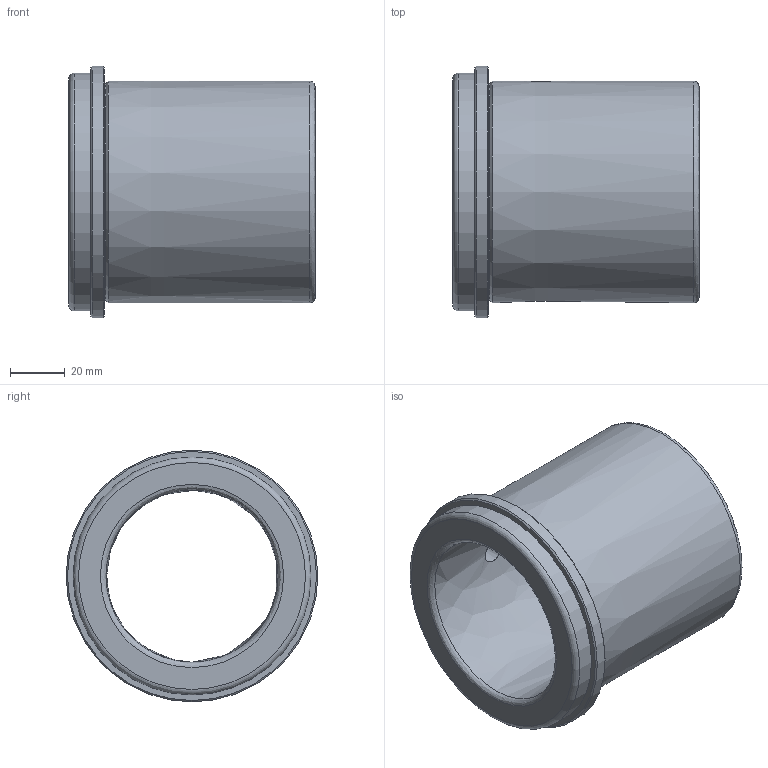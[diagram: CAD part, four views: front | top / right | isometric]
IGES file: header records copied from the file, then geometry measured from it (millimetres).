
Start section: Data from Parasolid IGES Translator 20.0.26, Copyright(c) 2006 Siemens P LM Software. All Rights Reserved.
Global section: file name: WZ - 4032 63 x 90.igs; native system: By Siemens PLM Incorporated; preprocessor: XPlus GENERIC/IGES 20.0.26; author: Noname; organization: Noname; date: 20201203.204339; units: millimetre
Bounding box: 90 x 92 x 92 mm (x, y, z)
Surface area: 47968.7 mm2 (no closed solid volume)
Topology: 0 solids, 0 shells, 19 faces, 70 edges, 46 vertices
Faces by surface type: revolution 14, extrusion 5
